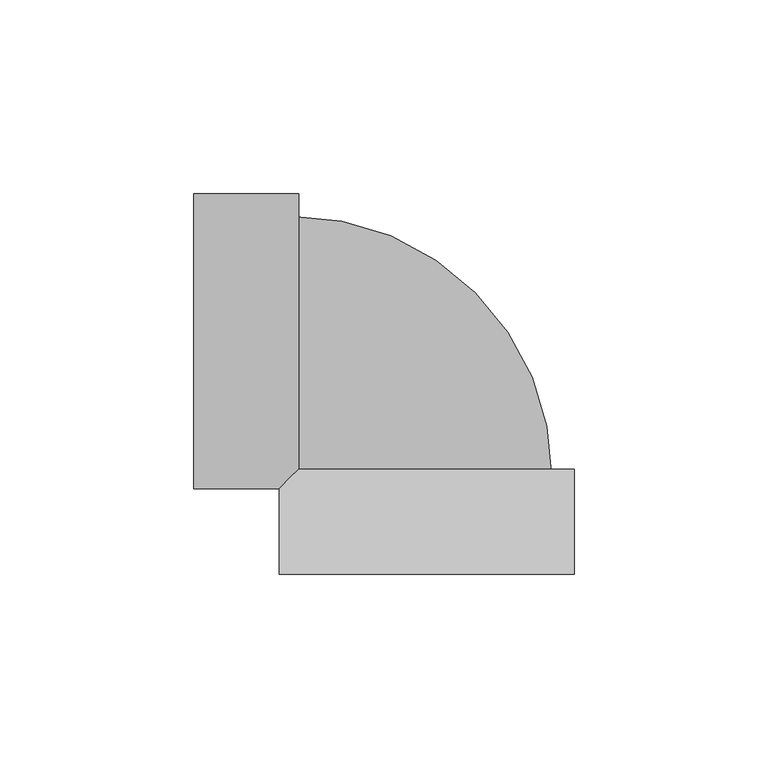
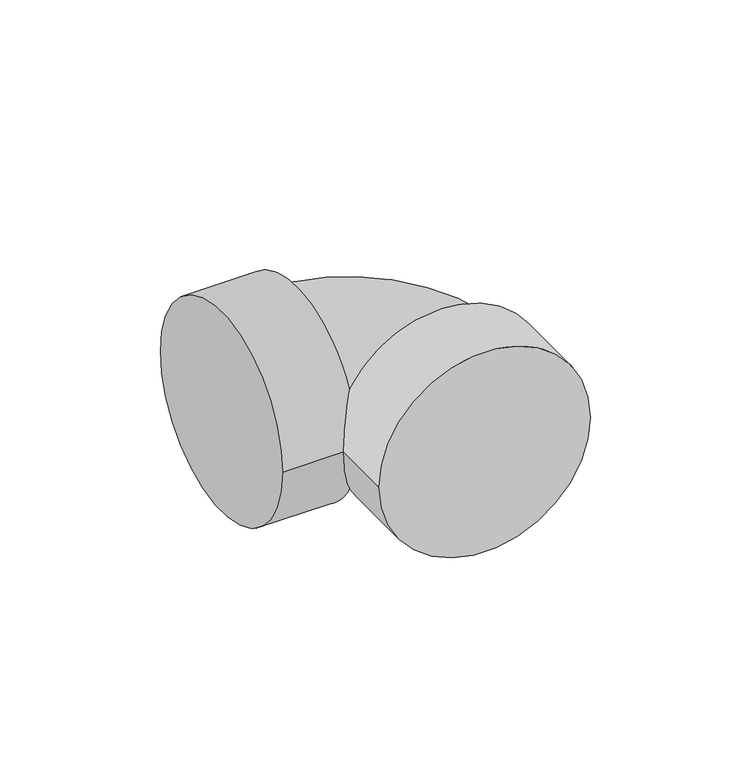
"""IFC4 building model written with IfcOpenShell, lengths in millimetres: pipe fitting geometry, 01011001 : Coudes à 90º."""

from ifc_helpers import new_model, si_unit, point, frame, origin, place, context, project, spatial, circle_curve, ellipse_curve, trimmed, source, transform, mapped, element, save
from ifc_brep_helpers import plane_surface, cylinder_surface, revolved_surface, advanced_brep


def pipe_fitting_fc513b1f(model_context):
    return source(origin(), model_context, "Body", "AdvancedBrep", [
        advanced_brep(
        [(-38.0, -60.0, 0.0), (38.0, -60.0, 0.0), (-33.0, -33.0, -18.8414437), (-33.0, -33.0, 18.8414437), (38.0, -33.0, 0.0), (-38.0, -38.0, 0.0), (-60.0, 38.0, 0.0), (-60.0, -38.0, 0.0), (-33.0, 38.0, 0.0)],
        [
            (0, 1, circle_curve(frame((0.0, -60.0, 0.0), z_axis=(0.0, -1.0, 0.0), x_axis=(1.0, 0.0, 0.0)), 38.0)),
            (1, 0, circle_curve(frame((0.0, -60.0, 0.0), z_axis=(0.0, -1.0, 0.0), x_axis=(1.0, 0.0, 0.0)), 38.0)),
            (2, 3),
            (3, 4, circle_curve(frame((0.0, -33.0, 0.0), z_axis=(0.0, 1.0, 0.0), x_axis=(1.0, 0.0, 0.0)), 38.0)),
            (4, 2, circle_curve(frame((0.0, -33.0, 0.0), z_axis=(0.0, 1.0, 0.0), x_axis=(1.0, 0.0, 0.0)), 38.0)),
            (1, 4),
            (3, 5, ellipse_curve(frame((0.0, 0.0, 0.0), z_axis=(0.7071067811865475, -0.7071067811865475, 0.0), x_axis=(-0.7071067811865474, -0.7071067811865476, 0.0)), 53.7401154, 38.0)),
            (5, 0),
            (5, 2, ellipse_curve(frame((0.0, 0.0, 0.0), z_axis=(0.7071067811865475, -0.7071067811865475, 0.0), x_axis=(-0.7071067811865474, -0.7071067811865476, 0.0)), 53.7401154, 38.0)),
            (6, 7, circle_curve(frame((-60.0, 0.0, 0.0), z_axis=(-1.0, 0.0, 0.0), x_axis=(0.0, -1.0, 0.0)), 38.0)),
            (7, 6, circle_curve(frame((-60.0, 0.0, 0.0), z_axis=(-1.0, 0.0, 0.0), x_axis=(0.0, -1.0, 0.0)), 38.0)),
            (8, 3, circle_curve(frame((-33.0, 0.0, 0.0), z_axis=(1.0, 0.0, 0.0), x_axis=(0.0, -1.0, 0.0)), 38.0)),
            (2, 8, circle_curve(frame((-33.0, 0.0, 0.0), z_axis=(1.0, 0.0, 0.0), x_axis=(0.0, -1.0, 0.0)), 38.0)),
            (7, 5),
            (8, 6),
        ],
        [
            plane_surface(frame((0.0, -60.0, 0.0), z_axis=(0.0, -1.0, 0.0), x_axis=(0.0, 0.0, 1.0))),
            plane_surface(frame((0.0, -33.0, 0.0), z_axis=(0.0, 1.0, 0.0), x_axis=(0.0, 0.0, 1.0))),
            cylinder_surface(frame((0.0, -60.0, 0.0), z_axis=(0.0, -1.0, 0.0), x_axis=(1.0, 0.0, 0.0)), 38.0),
            plane_surface(frame((-60.0, 0.0, 0.0), z_axis=(-1.0, 0.0, 0.0), x_axis=(0.0, 0.0, 1.0))),
            plane_surface(frame((-33.0, 0.0, 0.0), z_axis=(1.0, 0.0, 0.0), x_axis=(0.0, 0.0, 1.0))),
            cylinder_surface(frame((-60.0, 0.0, 0.0), z_axis=(-1.0, 0.0, 0.0), x_axis=(0.0, -1.0, 0.0)), 38.0),
        ],
        [
            (0, [[1, 2]]),
            (1, [[3, 4, 5]]),
            (2, [[6, -4, 7, 8, -2]]),
            (2, [[-8, 9, -5, -6, -1]]),
            (3, [[10, 11]]),
            (4, [[12, -3, 13]]),
            (5, [[14, -7, -12, 15, -11]]),
            (5, [[-15, -13, -9, -14, -10]]),
        ],
    ),
        advanced_brep(
        [(-32.3, -35.0, 0.0), (32.3, -35.0, 0.0), (-35.0, -32.3, 0.0), (-35.0, 32.3, 0.0)],
        [
            (0, 1, circle_curve(frame((0.0, -35.0, 0.0), z_axis=(0.0, -1.0, 0.0), x_axis=(1.0, 0.0, 0.0)), 32.3)),
            (1, 0, circle_curve(frame((0.0, -35.0, 0.0), z_axis=(0.0, -1.0, 0.0), x_axis=(1.0, 0.0, 0.0)), 32.3)),
            (2, 3, circle_curve(frame((-35.0, 0.0, 0.0), z_axis=(-1.0, 0.0, 0.0), x_axis=(0.0, 1.0, 0.0)), 32.3)),
            (3, 2, circle_curve(frame((-35.0, 0.0, 0.0), z_axis=(-1.0, 0.0, 0.0), x_axis=(0.0, 1.0, 0.0)), 32.3)),
            (2, 0, circle_curve(frame((-35.0, -35.0, 0.0), z_axis=(0.0, 0.0, -1.0), x_axis=(1.0, 0.0, 0.0)), 2.7)),
            (1, 3, circle_curve(frame((-35.0, -35.0, 0.0), z_axis=(0.0, 0.0, 1.0), x_axis=(1.0, 0.0, 0.0)), 67.3)),
        ],
        [
            plane_surface(frame((0.0, -35.0, 0.0), z_axis=(0.0, -1.0, 0.0), x_axis=(0.0, 0.0, 1.0))),
            plane_surface(frame((-35.0, 0.0, 0.0), z_axis=(-1.0, 0.0, 0.0), x_axis=(0.0, 0.0, 1.0))),
            revolved_surface(trimmed(ellipse_curve(frame((0.0, -35.0, 0.0), z_axis=(0.0, 1.0, 0.0), x_axis=(1.0, 0.0, 0.0)), 32.3, 32.3), [point((-32.3, -35.0, 0.0))], [point((32.3, -35.0, 0.0))], True, "CARTESIAN"), (-35.0, -35.0, 0.0), (0.0, 0.0, -1.0)),
            revolved_surface(trimmed(ellipse_curve(frame((0.0, -35.0, 0.0), z_axis=(0.0, 1.0, 0.0), x_axis=(1.0, 0.0, 0.0)), 32.3, 32.3), [point((32.3, -35.0, 0.0))], [point((-32.3, -35.0, 0.0))], True, "CARTESIAN"), (-35.0, -35.0, 0.0), (0.0, 0.0, -1.0)),
        ],
        [
            (0, [[1, 2]]),
            (1, [[3, 4]]),
            (2, [[-3, 5, -2, 6]]),
            (3, [[-4, -6, -1, -5]]),
        ],
    ),
    ])


if __name__ == "__main__":
    model = new_model("IFC4")
    model_context = context("Model", 3, world=origin())
    ifc_project = project(units=[si_unit("LENGTHUNIT", "METRE", prefix="MILLI")], contexts=[model_context])
    site = spatial("IfcSite", under=ifc_project)
    building = spatial("IfcBuilding", under=site)
    placement = place(None, origin())
    pipe_fitting_shape = pipe_fitting_fc513b1f(model_context)
    element("IfcPipeFitting", 1, ObjectType="01011001 : Coudes à 90º", at=placement, inside=building, context=model_context, shape_type="MappedRepresentation", body=[
        mapped(pipe_fitting_shape, transform((0.0, 0.0, 0.0), x_axis=(1.0, 0.0, 0.0), y_axis=(0.0, 1.0, 0.0), z_axis=(0.0, 0.0, 1.0))),
    ])
    save(model, "model.ifc")
